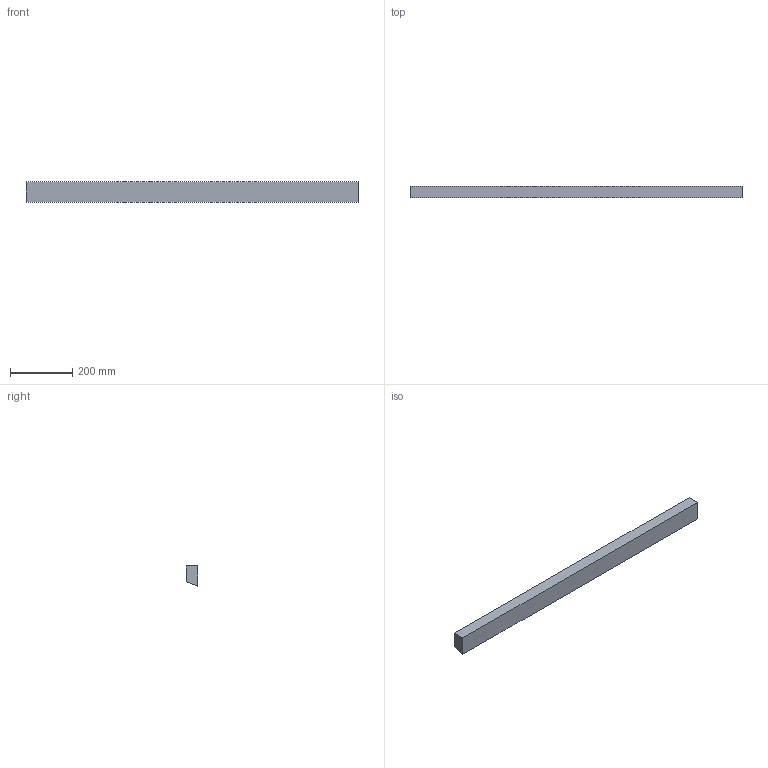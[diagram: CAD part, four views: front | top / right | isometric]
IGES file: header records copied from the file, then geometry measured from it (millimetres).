
Start section:  PTC IGES file: C:\Documents and Settings\Brad\Desktop\LABsub_CAD\corner _support.igs
Global section: file name: C:\Documents and Settings\Brad\Desktop\LABsub_CAD\corner_support.igs; native system: Brad by Parametric Technology Corporation; preprocessor: 2003250; author: Unknown; organization: PTC; date: 040522.160822; units: inch
Bounding box: 1066.8 x 38.1 x 64.67 mm (x, y, z)
Volume: 2346588.1 mm3; surface area: 211478.5 mm2
Topology: 1 solids, 1 shells, 6 faces, 12 edges, 8 vertices
Faces by surface type: bspline 6
